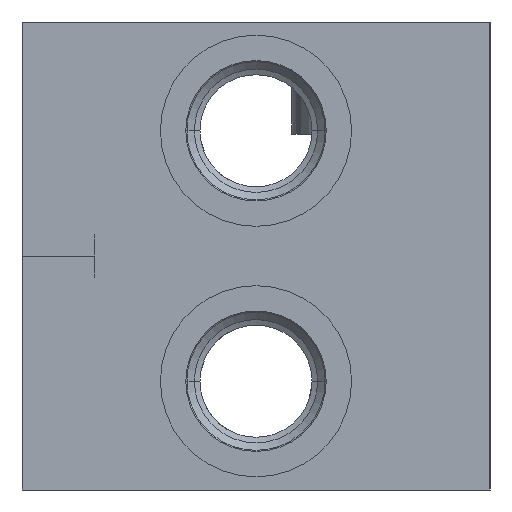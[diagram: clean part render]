
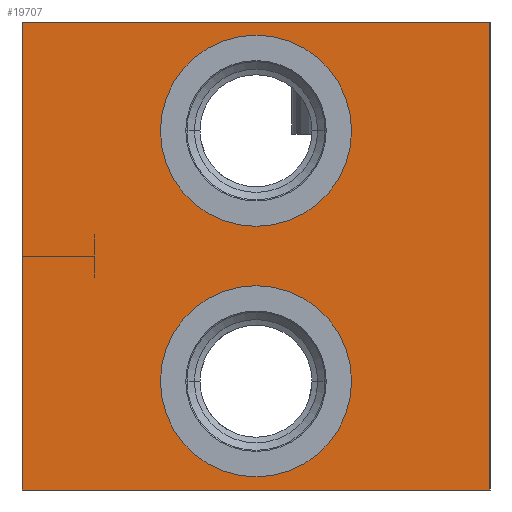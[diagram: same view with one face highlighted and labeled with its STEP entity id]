
A CAD part, left-side view. The second image highlights one B-rep face of the part: STEP entity #19707.
In plain terms, the highlighted planar face has unit normal (-1, 0, 0).
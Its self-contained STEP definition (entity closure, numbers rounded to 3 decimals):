
#26=DIRECTION('',(0.,-1.,0.));
#27=VECTOR('',#26,71.);
#28=CARTESIAN_POINT('',(0.,71.,0.));
#29=LINE('',#28,#27);
#383=DIRECTION('',(0.,0.,-1.));
#384=VECTOR('',#383,71.);
#385=CARTESIAN_POINT('',(0.,0.,0.));
#386=LINE('',#385,#384);
#2866=DIRECTION('',(0.,0.,-1.));
#2867=VECTOR('',#2866,71.);
#2868=CARTESIAN_POINT('',(0.,71.,0.));
#2869=LINE('',#2868,#2867);
#2873=CARTESIAN_POINT('',(0.,35.5,-54.5));
#2874=DIRECTION('',(1.,0.,0.));
#2875=DIRECTION('',(0.,-1.,0.));
#2876=AXIS2_PLACEMENT_3D('',#2873,#2874,#2875);
#2881=CARTESIAN_POINT('',(0.,35.5,-54.5));
#2882=DIRECTION('',(1.,0.,0.));
#2883=DIRECTION('',(0.,1.,0.));
#2884=AXIS2_PLACEMENT_3D('',#2881,#2882,#2883);
#2889=CARTESIAN_POINT('',(0.,35.5,-16.5));
#2890=DIRECTION('',(1.,0.,0.));
#2891=DIRECTION('',(0.,-1.,0.));
#2892=AXIS2_PLACEMENT_3D('',#2889,#2890,#2891);
#2897=CARTESIAN_POINT('',(0.,35.5,-16.5));
#2898=DIRECTION('',(1.,0.,0.));
#2899=DIRECTION('',(0.,1.,0.));
#2900=AXIS2_PLACEMENT_3D('',#2897,#2898,#2899);
#2926=DIRECTION('',(0.,-1.,0.));
#2927=VECTOR('',#2926,71.);
#2928=CARTESIAN_POINT('',(0.,71.,-71.));
#2929=LINE('',#2928,#2927);
#17425=CARTESIAN_POINT('',(0.,0.,0.));
#17427=VERTEX_POINT('',#17425);
#17431=CARTESIAN_POINT('',(0.,71.,0.));
#17432=VERTEX_POINT('',#17431);
#17433=CARTESIAN_POINT('',(0.,0.,-71.));
#17435=VERTEX_POINT('',#17433);
#17439=CARTESIAN_POINT('',(0.,71.,-71.));
#17440=VERTEX_POINT('',#17439);
#17497=CARTESIAN_POINT('',(0.,21.,-54.5));
#17498=CARTESIAN_POINT('',(0.,50.,-54.5));
#17499=VERTEX_POINT('',#17497);
#17500=VERTEX_POINT('',#17498);
#17517=CARTESIAN_POINT('',(0.,21.,-16.5));
#17518=CARTESIAN_POINT('',(0.,50.,-16.5));
#17519=VERTEX_POINT('',#17517);
#17520=VERTEX_POINT('',#17518);
#19683=CARTESIAN_POINT('',(0.,71.,0.));
#19684=DIRECTION('',(-1.,0.,0.));
#19685=DIRECTION('',(0.,-1.,0.));
#19686=AXIS2_PLACEMENT_3D('',#19683,#19684,#19685);
#19687=PLANE('',#19686);
#19688=ORIENTED_EDGE('',*,*,#18959,.T.);
#19689=ORIENTED_EDGE('',*,*,#19116,.T.);
#19691=ORIENTED_EDGE('',*,*,#19690,.F.);
#19692=ORIENTED_EDGE('',*,*,#19213,.F.);
#19693=EDGE_LOOP('',(#19688,#19689,#19691,#19692));
#19694=FACE_OUTER_BOUND('',#19693,.F.);
#19696=ORIENTED_EDGE('',*,*,#19695,.F.);
#19698=ORIENTED_EDGE('',*,*,#19697,.F.);
#19699=EDGE_LOOP('',(#19696,#19698));
#19700=FACE_BOUND('',#19699,.F.);
#19702=ORIENTED_EDGE('',*,*,#19701,.F.);
#19704=ORIENTED_EDGE('',*,*,#19703,.F.);
#19705=EDGE_LOOP('',(#19702,#19704));
#19706=FACE_BOUND('',#19705,.F.);
#2877=CIRCLE('',#2876,14.5);
#2885=CIRCLE('',#2884,14.5);
#2893=CIRCLE('',#2892,14.5);
#2901=CIRCLE('',#2900,14.5);
#18959=EDGE_CURVE('',#17432,#17427,#29,.T.);
#19116=EDGE_CURVE('',#17427,#17435,#386,.T.);
#19213=EDGE_CURVE('',#17432,#17440,#2869,.T.);
#19690=EDGE_CURVE('',#17440,#17435,#2929,.T.);
#19695=EDGE_CURVE('',#17499,#17500,#2877,.T.);
#19697=EDGE_CURVE('',#17500,#17499,#2885,.T.);
#19701=EDGE_CURVE('',#17519,#17520,#2893,.T.);
#19703=EDGE_CURVE('',#17520,#17519,#2901,.T.);
#19707=ADVANCED_FACE('',(#19694,#19700,#19706),#19687,.T.);
